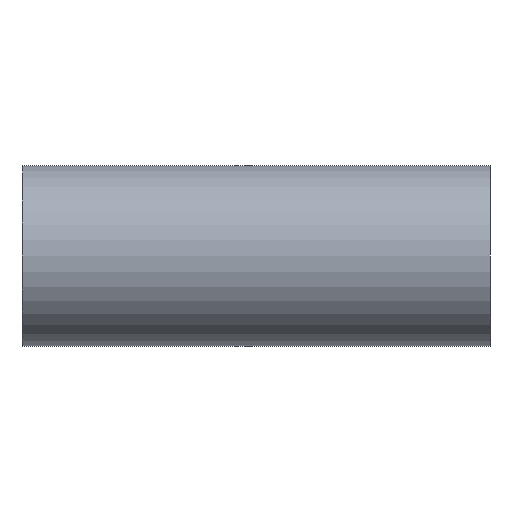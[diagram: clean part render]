
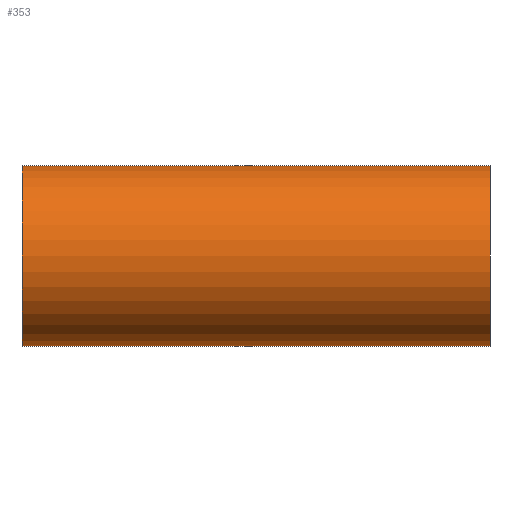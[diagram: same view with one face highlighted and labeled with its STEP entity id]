
A CAD part, front view. The second image highlights one B-rep face of the part: STEP entity #353.
In plain terms, the highlighted cylindrical face has radius 31.75 mm (diameter 63.5 mm), a partial arc.
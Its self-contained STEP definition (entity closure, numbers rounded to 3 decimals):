
#2 = AXIS2_PLACEMENT_3D ( 'NONE', #15, #469, #19 ) ;
#6 = LINE ( 'NONE', #426, #254 ) ;
#15 = CARTESIAN_POINT ( 'NONE',  ( 171.903, 0., 0. ) ) ;
#19 = DIRECTION ( 'NONE',  ( 0., 0., 1. ) ) ;
#30 = CIRCLE ( 'NONE', #325, 31.75 ) ;
#44 = CARTESIAN_POINT ( 'NONE',  ( 82.1, 0., -31.75 ) ) ;
#91 = DIRECTION ( 'NONE',  ( -1., 0., 0. ) ) ;
#113 = LINE ( 'NONE', #215, #148 ) ;
#148 = VECTOR ( 'NONE', #465, 1000. ) ;
#179 = VERTEX_POINT ( 'NONE', #492 ) ;
#185 = ORIENTED_EDGE ( 'NONE', *, *, #375, .F. ) ;
#215 = CARTESIAN_POINT ( 'NONE',  ( 171.903, 0., -31.75 ) ) ;
#220 = ORIENTED_EDGE ( 'NONE', *, *, #431, .T. ) ;
#245 = AXIS2_PLACEMENT_3D ( 'NONE', #498, #501, #516 ) ;
#254 = VECTOR ( 'NONE', #91, 1000. ) ;
#265 = FACE_OUTER_BOUND ( 'NONE', #462, .T. ) ;
#266 = CARTESIAN_POINT ( 'NONE',  ( 82.1, 0., 31.75 ) ) ;
#284 = VERTEX_POINT ( 'NONE', #300 ) ;
#300 = CARTESIAN_POINT ( 'NONE',  ( -82.1, 0., -31.75 ) ) ;
#325 = AXIS2_PLACEMENT_3D ( 'NONE', #486, #520, #450 ) ;
#328 = EDGE_CURVE ( 'NONE', #179, #284, #30, .T. ) ;
#331 = CYLINDRICAL_SURFACE ( 'NONE', #2, 31.75 ) ;
#353 = ADVANCED_FACE ( 'NONE', ( #265 ), #331, .T. ) ;
#355 = CIRCLE ( 'NONE', #245, 31.75 ) ;
#375 = EDGE_CURVE ( 'NONE', #449, #284, #113, .T. ) ;
#417 = ORIENTED_EDGE ( 'NONE', *, *, #536, .T. ) ;
#426 = CARTESIAN_POINT ( 'NONE',  ( 171.903, 0., 31.75 ) ) ;
#431 = EDGE_CURVE ( 'NONE', #464, #179, #6, .T. ) ;
#449 = VERTEX_POINT ( 'NONE', #44 ) ;
#450 = DIRECTION ( 'NONE',  ( 0., 0., 1. ) ) ;
#462 = EDGE_LOOP ( 'NONE', ( #185, #417, #220, #480 ) ) ;
#464 = VERTEX_POINT ( 'NONE', #266 ) ;
#465 = DIRECTION ( 'NONE',  ( -1., 0., 0. ) ) ;
#469 = DIRECTION ( 'NONE',  ( -1., 0., 0. ) ) ;
#480 = ORIENTED_EDGE ( 'NONE', *, *, #328, .T. ) ;
#486 = CARTESIAN_POINT ( 'NONE',  ( -82.1, 0., 0. ) ) ;
#492 = CARTESIAN_POINT ( 'NONE',  ( -82.1, 0., 31.75 ) ) ;
#498 = CARTESIAN_POINT ( 'NONE',  ( 82.1, 0., 0. ) ) ;
#501 = DIRECTION ( 'NONE',  ( -1., 0., 0. ) ) ;
#516 = DIRECTION ( 'NONE',  ( 0., 0., 1. ) ) ;
#520 = DIRECTION ( 'NONE',  ( 1., 0., 0. ) ) ;
#536 = EDGE_CURVE ( 'NONE', #449, #464, #355, .T. ) ;
